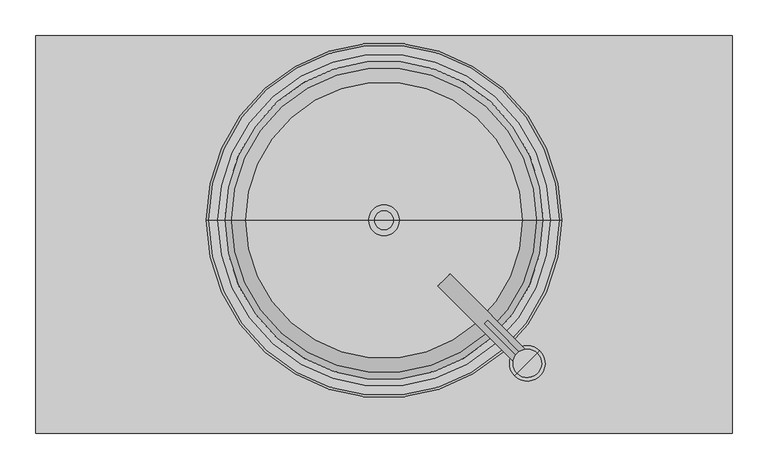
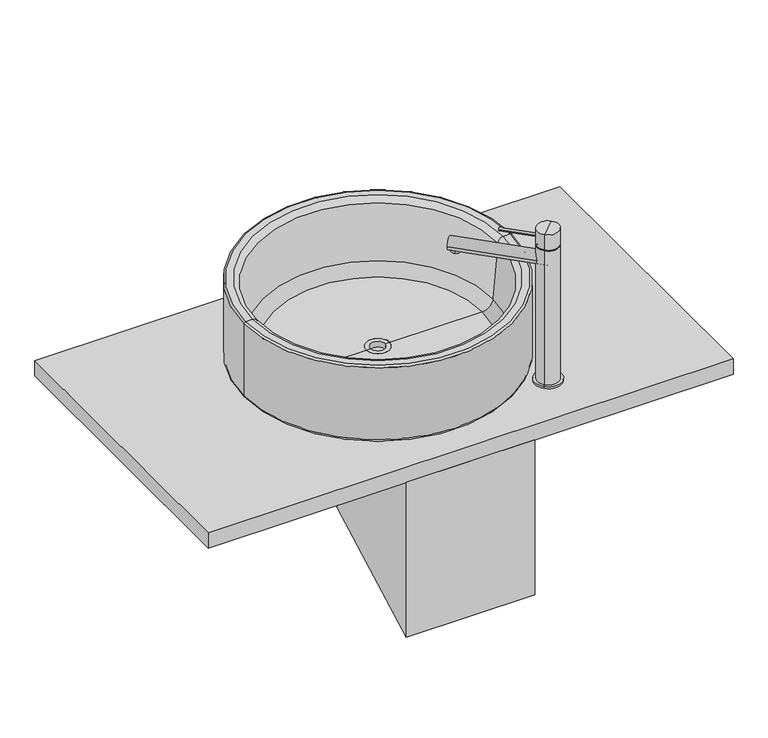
"""IFC4 building model written with IfcOpenShell, lengths in millimetres: flow terminal geometry, Lavabo moderne : Lavabo moderne."""

import ifcopenshell
import ifcopenshell.guid

model = None  # the IFC model being written
_history = None  # IfcOwnerHistory: only IFC2X3 demands one
_inside = {}  # id of a spatial element -> (the spatial element, [elements in it])
_under = {}  # id of a project, library or spatial element -> (it, [spatial elements below it])
_declared = {}  # id of a project -> (the project, [libraries it declares])
_typed = {}  # id of a type object -> (the type object, [elements of that type])
_made_of = {}  # id of a material, layer set ... -> (it, [elements and type objects made of it])


def new_model(schema):
    """Start an empty IFC model of exactly this schema.

    Asked for "IFC4X3", IfcOpenShell would pick the latest addendum, in which some entities
    have other attributes; the version numbers below select the first issue.
    IFC2X3 requires an IfcOwnerHistory on every rooted entity: one is made here for all.
    """
    global model, _history
    if schema == "IFC4X3":
        model = ifcopenshell.file(schema_version=(4, 3, 0, 0))
    else:
        model = ifcopenshell.file(schema=schema)
    _inside.clear()
    _under.clear()
    _declared.clear()
    _typed.clear()
    _made_of.clear()
    _history = None
    if model.schema == "IFC2X3":
        org = make("IfcOrganization", Name="unknown")
        user = make(
            "IfcPersonAndOrganization",
            ThePerson=make("IfcPerson", FamilyName="unknown"),
            TheOrganization=org,
        )
        app = make(
            "IfcApplication",
            ApplicationDeveloper=org,
            Version="unknown",
            ApplicationFullName="unknown",
            ApplicationIdentifier="unknown",
        )
        _history = make(
            "IfcOwnerHistory",
            OwningUser=user,
            OwningApplication=app,
            ChangeAction="ADDED",
            CreationDate=0,
        )
    return model


def make(cls, **values):
    """One entity of the class cls with the attributes given. An attribute that is None is left unset."""
    return model.create_entity(
        cls, **{name: value for name, value in values.items() if value is not None}
    )


def rooted(cls, **values):
    """An entity with a GlobalId (a new one), such as an element, a storey or a relation."""
    return make(cls, GlobalId=ifcopenshell.guid.new(), OwnerHistory=_history, **values)


def si_unit(unit_type, name, prefix=None):
    """IfcSIUnit, for example si_unit("LENGTHUNIT", "METRE", prefix="MILLI")."""
    return make("IfcSIUnit", UnitType=unit_type, Prefix=prefix, Name=name)


def assignment(units):
    """IfcUnitAssignment: the units of a project."""
    return None if units is None else make("IfcUnitAssignment", Units=units)


def point(xyz):
    """IfcCartesianPoint."""
    return None if xyz is None else make("IfcCartesianPoint", Coordinates=xyz)


def direction(xyz):
    """IfcDirection."""
    return None if xyz is None else make("IfcDirection", DirectionRatios=xyz)


def frame(location, z_axis=None, x_axis=None):
    """IfcAxis2Placement3D, a coordinate frame: its origin and axes. An axis left out is left unset."""
    return make(
        "IfcAxis2Placement3D",
        Location=point(location),
        Axis=direction(z_axis),
        RefDirection=direction(x_axis),
    )


def frame_2d(location, x_axis=None):
    """IfcAxis2Placement2D, a coordinate frame in the plane: its origin and x axis."""
    return make(
        "IfcAxis2Placement2D", Location=point(location), RefDirection=direction(x_axis)
    )


def origin():
    """The frame at (0, 0, 0) with its axes left unset."""
    return frame((0.0, 0.0, 0.0))


def place(relative_to, where):
    """IfcLocalPlacement: puts the frame where relative to a parent placement (None: the world)."""
    return make(
        "IfcLocalPlacement", PlacementRelTo=relative_to, RelativePlacement=where
    )


def context(
    kind, dimensions, precision=None, world=None, true_north=None, identifier=None
):
    """IfcGeometricRepresentationContext, for example the 3D "Model" context."""
    return make(
        "IfcGeometricRepresentationContext",
        ContextIdentifier=identifier,
        ContextType=kind,
        CoordinateSpaceDimension=dimensions,
        Precision=precision,
        WorldCoordinateSystem=world,
        TrueNorth=true_north,
    )


def project(units=None, contexts=None):
    """IfcProject with its units and contexts."""
    return rooted(
        "IfcProject",
        Name="project",
        RepresentationContexts=contexts,
        UnitsInContext=assignment(units),
    )


def spatial(cls, under=None, at=None, **own):
    """A site, building, storey or space (cls), placed at a placement, below another one or the project."""
    s = rooted(cls, ObjectPlacement=at, **own)
    if under is not None:
        _under.setdefault(under.id(), (under, []))[1].append(s)
    return s


def polyline(points):
    """IfcPolyline through the points."""
    return make("IfcPolyline", Points=[point(p) for p in points])


def circle_curve(where, radius):
    """IfcCircle in the frame where."""
    return make("IfcCircle", Position=where, Radius=radius)


def ellipse_curve(where, semi_axis1, semi_axis2):
    """IfcEllipse in the frame where."""
    return make(
        "IfcEllipse", Position=where, SemiAxis1=semi_axis1, SemiAxis2=semi_axis2
    )


def trimmed(basis, trim1, trim2, sense, master):
    """IfcTrimmedCurve: the piece of a basis curve between two trims."""
    return make(
        "IfcTrimmedCurve",
        BasisCurve=basis,
        Trim1=trim1,
        Trim2=trim2,
        SenseAgreement=sense,
        MasterRepresentation=master,
    )


def segment(curve, same_sense, transition):
    """IfcCompositeCurveSegment."""
    return make(
        "IfcCompositeCurveSegment",
        Transition=transition,
        SameSense=same_sense,
        ParentCurve=curve,
    )


def composite_curve(segments, self_intersect=None):
    """IfcCompositeCurve: segments joined end to end."""
    return make("IfcCompositeCurve", Segments=segments, SelfIntersect=self_intersect)


def outline(outer, holes=None, kind="AREA"):
    """IfcArbitraryClosedProfileDef: a profile drawn as a closed curve; with holes, ...WithVoids."""
    if holes is None:
        return make("IfcArbitraryClosedProfileDef", ProfileType=kind, OuterCurve=outer)
    return make(
        "IfcArbitraryProfileDefWithVoids",
        ProfileType=kind,
        OuterCurve=outer,
        InnerCurves=holes,
    )


def extrude(swept, where, along, depth):
    """IfcExtrudedAreaSolid: the profile swept, set in the frame where, extruded along a direction by depth."""
    return make(
        "IfcExtrudedAreaSolid",
        SweptArea=swept,
        Position=where,
        ExtrudedDirection=direction(along),
        Depth=depth,
    )


def shape(context_of_items, identifier, shape_type, items):
    """IfcShapeRepresentation: the items that make up one representation, for example the "Body"."""
    return make(
        "IfcShapeRepresentation",
        ContextOfItems=context_of_items,
        RepresentationIdentifier=identifier,
        RepresentationType=shape_type,
        Items=items,
    )


def source(mapping_origin, context_of_items, identifier, shape_type, items):
    """IfcRepresentationMap: a shape defined once, which mapped items show again and again."""
    return make(
        "IfcRepresentationMap",
        MappingOrigin=mapping_origin,
        MappedRepresentation=shape(context_of_items, identifier, shape_type, items),
    )


def transform(
    local_origin,
    x_axis=None,
    y_axis=None,
    z_axis=None,
    scale=None,
    scale2=None,
    scale3=None,
    uniform=True,
):
    """IfcCartesianTransformationOperator3D, or its non-uniform kind. x_axis, y_axis, z_axis: its Axis1, 2, 3."""
    if uniform:
        return make(
            "IfcCartesianTransformationOperator3D",
            Axis1=direction(x_axis),
            Axis2=direction(y_axis),
            LocalOrigin=point(local_origin),
            Scale=scale,
            Axis3=direction(z_axis),
        )
    return make(
        "IfcCartesianTransformationOperator3DnonUniform",
        Axis1=direction(x_axis),
        Axis2=direction(y_axis),
        LocalOrigin=point(local_origin),
        Scale=scale,
        Axis3=direction(z_axis),
        Scale2=scale2,
        Scale3=scale3,
    )


def mapped(mapping_source, mapping_target):
    """IfcMappedItem: shows the shape of a source again, moved by a transform."""
    return make(
        "IfcMappedItem", MappingSource=mapping_source, MappingTarget=mapping_target
    )


def made_of(thing, what):
    """Note that an element or type object is made of a material, layer set ...; save() writes the relation."""
    if what is not None:
        _made_of.setdefault(what.id(), (what, []))[1].append(thing)
    return thing


def element(
    cls,
    number,
    at=None,
    inside=None,
    cuts=None,
    type_object=None,
    material=None,
    context=None,
    identifier="Body",
    shape_type=None,
    held_by="IfcProductDefinitionShape",
    body=None,
    shapes=None,
    **own,
):
    """One element of the class cls, such as IfcWall. Its Tag is "e" and its number.

    at: its placement. inside: the storey or other place that contains it. cuts: it is an
    opening in that element (IfcRelVoidsElement). A single representation is given by context,
    identifier, shape_type and body (its items); several are given by shapes. held_by: the class
    of the entity that holds the representations. save() writes the other relations.
    """
    e = rooted(cls, Tag="e%d" % number, ObjectPlacement=at, **own)
    if body is not None:
        shapes = [shape(context, identifier, shape_type, body)]
    if shapes is not None:
        e.Representation = make(held_by, Representations=shapes)
    if inside is not None:
        _inside.setdefault(inside.id(), (inside, []))[1].append(e)
    if cuts is not None:
        rooted(
            "IfcRelVoidsElement", RelatingBuildingElement=cuts, RelatedOpeningElement=e
        )
    if type_object is not None:
        _typed.setdefault(type_object.id(), (type_object, []))[1].append(e)
    return made_of(e, material)


def aggregate(whole, parts):
    """IfcRelAggregates: a whole, such as a stair, and the parts it consists of."""
    return rooted("IfcRelAggregates", RelatingObject=whole, RelatedObjects=parts)


def save(model, path):
    """Write the relations noted so far, then the file.

    IfcRelAggregates (storeys below a building ...), IfcRelContainedInSpatialStructure (elements
    in a storey), IfcRelDefinesByType, IfcRelAssociatesMaterial and IfcRelDeclares: one each for
    every whole, place, type object, material and project.
    """
    for whole, parts in _under.values():
        aggregate(whole, parts)
    for where, things in _inside.values():
        rooted(
            "IfcRelContainedInSpatialStructure",
            RelatedElements=things,
            RelatingStructure=where,
        )
    for kind, things in _typed.values():
        rooted("IfcRelDefinesByType", RelatedObjects=things, RelatingType=kind)
    for what, things in _made_of.values():
        rooted("IfcRelAssociatesMaterial", RelatedObjects=things, RelatingMaterial=what)
    for by, libraries in _declared.values():
        rooted("IfcRelDeclares", RelatingContext=by, RelatedDefinitions=libraries)
    model.write(path)


def plane_surface(at):
    """IfcPlane: the flat surface through the origin of the frame at, square to its z axis."""
    return make("IfcPlane", Position=at)


def cylinder_surface(at, radius):
    """IfcCylindricalSurface: all points at the distance radius from the z axis of the frame at."""
    return make("IfcCylindricalSurface", Position=at, Radius=radius)


def revolved_surface(curve, axis_point, axis_direction):
    """IfcSurfaceOfRevolution: the curve turned about the line through axis_point along axis_direction."""
    return make(
        "IfcSurfaceOfRevolution",
        SweptCurve=make("IfcArbitraryOpenProfileDef", ProfileType="CURVE", Curve=curve),
        AxisPosition=make("IfcAxis1Placement", Location=point(axis_point), Axis=direction(axis_direction)),
    )


def advanced_brep(points, edges, surfaces, faces):
    """IfcAdvancedBrep: a solid bounded by faces that lie on surfaces and meet in shared edges.

    An edge is (start, end): straight between two places in points (the first is 0);
    or (start, end, curve); or (start, end, curve, False) where it runs against its curve.
    A face is (place in surfaces, loops), or (place, loops, False) where it looks against
    its surface's normal. A loop lists edges by number (the first is 1), with a minus sign
    where the edge is run from its end to its start. The first loop is the outer one.
    """
    corners = [point(p) for p in points]
    vertices = [make("IfcVertexPoint", VertexGeometry=c) for c in corners]
    made = []
    for start, end, *more in edges:
        made.append(
            make(
                "IfcEdgeCurve",
                EdgeStart=vertices[start],
                EdgeEnd=vertices[end],
                EdgeGeometry=more[0] if more else make("IfcPolyline", Points=[corners[start], corners[end]]),
                SameSense=more[1] if len(more) > 1 else True,
            )
        )
    hull = []
    for where, loops, *sense in faces:
        bounds = []
        for j, loop in enumerate(loops):
            ring = [make("IfcOrientedEdge", EdgeElement=made[abs(k) - 1], Orientation=k > 0) for k in loop]
            bounds.append(
                make(
                    "IfcFaceOuterBound" if j == 0 else "IfcFaceBound",
                    Bound=make("IfcEdgeLoop", EdgeList=ring),
                    Orientation=True,
                )
            )
        hull.append(make("IfcAdvancedFace", Bounds=bounds, FaceSurface=surfaces[where], SameSense=sense[0] if sense else True))
    return make("IfcAdvancedBrep", Outer=make("IfcClosedShell", CfsFaces=hull))


def flow_terminal_6b2f3d09(model_context):
    return source(origin(), model_context, "Body", "SolidModel", [
        advanced_brep(
        [(117.6871066, 224.1333228, 240.6419785), (115.8425701, 222.2887863, 233.1719709), (102.5610803, 209.0072965, 233.1719709), (100.7165438, 207.16276, 240.6419785), (217.8900178, 89.989286, 240.6419785), (234.8605806, 106.9598487, 240.6419785), (120.2387498, 191.329627, 233.1719709), (133.5202396, 204.6111168, 233.1719709)],
        [
            (0, 1, circle_curve(frame((109.2018252, 215.6480414, 240.6419785), z_axis=(-0.707106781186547, 0.707106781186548, 0.0), x_axis=(0.7071067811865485, 0.7071067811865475, 0.0)), 12.0)),
            (1, 2),
            (2, 3, circle_curve(frame((109.2018252, 215.6480414, 240.6419785), z_axis=(-0.707106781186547, 0.707106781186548, 0.0), x_axis=(0.7071067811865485, 0.7071067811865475, 0.0)), 12.0)),
            (3, 0, circle_curve(frame((109.2018252, 215.6480414, 240.6419785), z_axis=(-0.707106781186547, 0.707106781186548, 0.0), x_axis=(0.7071067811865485, 0.7071067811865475, 0.0)), 12.0)),
            (4, 5, circle_curve(frame((226.3752992, 98.4745674, 240.6419785), z_axis=(0.707106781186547, -0.707106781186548, 0.0), x_axis=(0.7071067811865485, 0.7071067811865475, 0.0)), 12.0)),
            (5, 4, circle_curve(frame((226.3752992, 98.4745674, 240.6419785), z_axis=(0.707106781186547, -0.707106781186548, 0.0), x_axis=(0.7071067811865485, 0.7071067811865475, 0.0)), 12.0)),
            (4, 3),
            (2, 6),
            (6, 7, circle_curve(frame((126.8794947, 197.9703719, 240.6419785), z_axis=(0.707106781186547, -0.707106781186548, 0.0), x_axis=(0.7071067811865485, 0.7071067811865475, 0.0)), 12.0)),
            (7, 1),
            (0, 5),
            (7, 6),
        ],
        [
            plane_surface(frame((117.6871066, 224.1333228, 240.6419785), z_axis=(-0.707106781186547, 0.707106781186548, 0.0), x_axis=(0.0, 0.0, 1.0))),
            plane_surface(frame((234.8605806, 106.9598487, 240.6419785), z_axis=(0.707106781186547, -0.707106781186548, 0.0), x_axis=(0.0, 0.0, -1.0))),
            cylinder_surface(frame((226.3752992, 98.4745674, 240.6419785), z_axis=(-0.7071067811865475, 0.7071067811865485, 0.0), x_axis=(0.7071067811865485, 0.7071067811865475, 0.0)), 12.0),
            plane_surface(frame((98.3017966, 204.7480128, 233.1719709), z_axis=(0.0, 0.0, -1.0), x_axis=(0.707106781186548, 0.707106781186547, 0.0))),
            plane_surface(frame((115.9794661, 187.0703433, 233.1719709), z_axis=(-0.707106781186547, 0.707106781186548, 0.0), x_axis=(0.707106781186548, 0.707106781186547, 0.0))),
        ],
        [
            (0, [[1, 2, 3, 4]]),
            (1, [[5, 6]]),
            (2, [[7, -3, 8, 9, 10, -1, 11, -5]]),
            (2, [[-7, -6, -11, -4]]),
            (3, [[-8, -2, -10, 12]]),
            (4, [[-9, -12]]),
        ],
    ),
        extrude(outline(composite_curve([segment(trimmed(circle_curve(frame_2d((0.0, 3.0)), 3.0), [point((0.0, 6.0))], [point((0.0, 0.0))], False, "CARTESIAN"), True, "CONTINUOUS"), segment(trimmed(circle_curve(frame_2d((0.0, 3.0)), 3.0), [point((0.0, 0.0))], [point((0.0, 6.0))], False, "CARTESIAN"), True, "CONTINUOUS")], self_intersect=False)), frame((228.4966196, 100.5958877, 283.2676852), z_axis=(-0.707106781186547, 0.707106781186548, 0.0), x_axis=(0.0, 0.0, -1.0)), (0.0, 0.0, 1.0), 82.0430665),
        advanced_brep(
        [(226.3752992, 98.4745674, 0.0), (244.0529687, 116.1522369, 0.0), (208.6976297, 80.7968978, 0.0), (240.5174348, 112.616703, 300.0), (226.3752992, 98.4745674, 300.0), (212.2331636, 84.3324317, 300.0), (212.2331636, 84.3324317, 270.0), (240.5174348, 112.616703, 270.0), (213.6473772, 85.7466453, 270.0), (239.1032213, 111.2024894, 270.0), (213.6473772, 85.7466453, 268.0), (239.1032213, 111.2024894, 268.0), (212.2331636, 84.3324317, 268.0), (240.5174348, 112.616703, 268.0), (212.2331636, 84.3324317, 4.0), (240.5174348, 112.616703, 4.0), (208.6976297, 80.7968978, 4.0), (244.0529687, 116.1522369, 4.0)],
        [
            (0, 1),
            (1, 2, circle_curve(frame((226.3752992, 98.4745674, 0.0), z_axis=(0.0, 0.0, -1.0), x_axis=(-0.7071067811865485, -0.7071067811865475, 0.0)), 25.0)),
            (2, 0),
            (2, 1, circle_curve(frame((226.3752992, 98.4745674, 0.0), z_axis=(0.0, 0.0, -1.0), x_axis=(-0.7071067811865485, -0.7071067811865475, 0.0)), 25.0)),
            (3, 4),
            (4, 5),
            (5, 3, circle_curve(frame((226.3752992, 98.4745674, 300.0), z_axis=(0.0, 0.0, 1.0), x_axis=(-0.7071067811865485, -0.7071067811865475, 0.0)), 20.0)),
            (3, 5, circle_curve(frame((226.3752992, 98.4745674, 300.0), z_axis=(0.0, 0.0, 1.0), x_axis=(-0.7071067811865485, -0.7071067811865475, 0.0)), 20.0)),
            (5, 6),
            (6, 7, circle_curve(frame((226.3752992, 98.4745674, 270.0), z_axis=(0.0, 0.0, 1.0), x_axis=(-0.7071067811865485, -0.7071067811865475, 0.0)), 20.0)),
            (7, 3),
            (7, 6, circle_curve(frame((226.3752992, 98.4745674, 270.0), z_axis=(0.0, 0.0, 1.0), x_axis=(-0.7071067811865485, -0.7071067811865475, 0.0)), 20.0)),
            (6, 8),
            (8, 9, circle_curve(frame((226.3752992, 98.4745674, 270.0), z_axis=(0.0, 0.0, 1.0), x_axis=(-0.7071067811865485, -0.7071067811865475, 0.0)), 18.0)),
            (9, 7),
            (9, 8, circle_curve(frame((226.3752992, 98.4745674, 270.0), z_axis=(0.0, 0.0, 1.0), x_axis=(-0.7071067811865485, -0.7071067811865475, 0.0)), 18.0)),
            (8, 10),
            (10, 11, circle_curve(frame((226.3752992, 98.4745674, 268.0), z_axis=(0.0, 0.0, 1.0), x_axis=(-0.7071067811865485, -0.7071067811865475, 0.0)), 18.0)),
            (11, 9),
            (11, 10, circle_curve(frame((226.3752992, 98.4745674, 268.0), z_axis=(0.0, 0.0, 1.0), x_axis=(-0.7071067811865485, -0.7071067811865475, 0.0)), 18.0)),
            (10, 12),
            (12, 13, circle_curve(frame((226.3752992, 98.4745674, 268.0), z_axis=(0.0, 0.0, 1.0), x_axis=(-0.7071067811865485, -0.7071067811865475, 0.0)), 20.0)),
            (13, 11),
            (13, 12, circle_curve(frame((226.3752992, 98.4745674, 268.0), z_axis=(0.0, 0.0, 1.0), x_axis=(-0.7071067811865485, -0.7071067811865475, 0.0)), 20.0)),
            (12, 14),
            (14, 15, circle_curve(frame((226.3752992, 98.4745674, 4.0), z_axis=(0.0, 0.0, 1.0), x_axis=(-0.7071067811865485, -0.7071067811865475, 0.0)), 20.0)),
            (15, 13),
            (15, 14, circle_curve(frame((226.3752992, 98.4745674, 4.0), z_axis=(0.0, 0.0, 1.0), x_axis=(-0.7071067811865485, -0.7071067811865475, 0.0)), 20.0)),
            (14, 16),
            (16, 17, circle_curve(frame((226.3752992, 98.4745674, 4.0), z_axis=(0.0, 0.0, 1.0), x_axis=(-0.7071067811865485, -0.7071067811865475, 0.0)), 25.0)),
            (17, 15),
            (17, 16, circle_curve(frame((226.3752992, 98.4745674, 4.0), z_axis=(0.0, 0.0, 1.0), x_axis=(-0.7071067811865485, -0.7071067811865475, 0.0)), 25.0)),
            (1, 17),
            (16, 2),
        ],
        [
            plane_surface(frame((226.3752992, 98.4745674, 0.0), z_axis=(0.0, 0.0, -1.0), x_axis=(-0.707106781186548, -0.707106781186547, 0.0))),
            plane_surface(frame((226.3752992, 98.4745674, 300.0), z_axis=(0.0, 0.0, 1.0), x_axis=(-0.707106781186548, -0.707106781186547, 0.0))),
            cylinder_surface(frame((226.3752992, 98.4745674, -25.0), z_axis=(0.0, 0.0, -1.0), x_axis=(-0.7071067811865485, -0.7071067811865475, 0.0)), 20.0),
            plane_surface(frame((226.3752992, 98.4745674, 270.0), z_axis=(0.0, 0.0, -1.0), x_axis=(-0.707106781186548, -0.707106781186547, 0.0))),
            cylinder_surface(frame((226.3752992, 98.4745674, -25.0), z_axis=(0.0, 0.0, -1.0), x_axis=(-0.7071067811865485, -0.7071067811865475, 0.0)), 18.0),
            plane_surface(frame((226.3752992, 98.4745674, 268.0), z_axis=(0.0, 0.0, 1.0), x_axis=(-0.707106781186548, -0.707106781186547, 0.0))),
            plane_surface(frame((226.3752992, 98.4745674, 4.0), z_axis=(0.0, 0.0, 1.0), x_axis=(-0.707106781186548, -0.707106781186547, 0.0))),
            cylinder_surface(frame((226.3752992, 98.4745674, -25.0), z_axis=(0.0, 0.0, -1.0), x_axis=(-0.7071067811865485, -0.7071067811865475, 0.0)), 25.0),
        ],
        [
            (0, [[1, 2, 3]]),
            (0, [[4, -1, -3]]),
            (1, [[5, 6, 7]]),
            (1, [[-5, 8, -6]]),
            (2, [[9, 10, 11, -7]]),
            (2, [[-11, 12, -9, -8]]),
            (3, [[13, 14, 15, -10]]),
            (3, [[-15, 16, -13, -12]]),
            (4, [[17, 18, 19, -14]]),
            (4, [[-19, 20, -17, -16]]),
            (5, [[21, 22, 23, -18]]),
            (5, [[-23, 24, -21, -20]]),
            (2, [[25, 26, 27, -22]]),
            (2, [[-27, 28, -25, -24]]),
            (6, [[29, 30, 31, -26]]),
            (6, [[-31, 32, -29, -28]]),
            (7, [[33, -30, 34, -2]]),
            (7, [[-34, -32, -33, -4]]),
        ],
    ),
        advanced_brep(
        [(111.5201538, 202.0160043, 233.1719709), (122.8338623, 213.3297128, 233.1719709), (111.5201538, 202.0160043, 227.0717002), (122.8338623, 213.3297128, 227.0717002)],
        [
            (0, 1, circle_curve(frame((117.177008, 207.6728586, 233.1719709), z_axis=(0.0, 0.0, 1.0), x_axis=(0.7071067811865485, 0.7071067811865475, 0.0)), 8.0)),
            (1, 0, circle_curve(frame((117.177008, 207.6728586, 233.1719709), z_axis=(0.0, 0.0, 1.0), x_axis=(0.7071067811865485, 0.7071067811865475, 0.0)), 8.0)),
            (2, 3, circle_curve(frame((117.177008, 207.6728586, 227.0717002), z_axis=(0.0, 0.0, -1.0), x_axis=(0.7071067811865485, 0.7071067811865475, 0.0)), 8.0)),
            (3, 2, circle_curve(frame((117.177008, 207.6728586, 227.0717002), z_axis=(0.0, 0.0, -1.0), x_axis=(0.7071067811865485, 0.7071067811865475, 0.0)), 8.0)),
            (1, 3),
            (2, 0),
        ],
        [
            plane_surface(frame((122.8338623, 213.3297128, 233.1719709), z_axis=(0.0, 0.0, 1.0), x_axis=(0.707106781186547, -0.707106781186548, 0.0))),
            plane_surface(frame((122.8338623, 213.3297128, 227.0717002), z_axis=(0.0, 0.0, -1.0), x_axis=(-0.707106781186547, 0.707106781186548, 0.0))),
            cylinder_surface(frame((117.177008, 207.6728586, 227.0717002), z_axis=(0.0, 0.0, 1.0), x_axis=(0.7071067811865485, 0.7071067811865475, 0.0)), 8.0),
        ],
        [
            (0, [[1, 2]]),
            (1, [[3, 4]]),
            (2, [[5, -3, 6, -2]]),
            (2, [[-6, -4, -5, -1]]),
        ],
    ),
        advanced_brep(
        [(93.9365302, 311.2708876, -30.0), (-44.2367971, 311.2708876, -30.0), (-95.0179319, 0.0, -30.0), (144.717665, 0.0, -30.0), (144.717665, 0.0, -335.8242671), (93.9365302, 311.2708876, -286.6762322), (-95.0179319, 0.0, -335.8242671), (-44.2367971, 311.2708876, -286.6762322)],
        [
            (0, 1, circle_curve(frame((24.8498666, 300.0, -30.0), z_axis=(0.0, 0.0, 1.0), x_axis=(1.0, 0.0, 0.0)), 70.0)),
            (1, 2),
            (2, 3),
            (3, 0),
            (3, 4),
            (4, 5),
            (5, 0),
            (2, 6),
            (6, 4),
            (1, 7),
            (7, 6),
            (5, 7, ellipse_curve(frame((24.8498666, 300.0, -288.4558461), z_axis=(0.0, -0.1559625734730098, 0.9877629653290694), x_axis=(0.0, 0.9877629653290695, 0.1559625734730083)), 70.8672044, 70.0)),
        ],
        [
            plane_surface(frame((154.8498666, -62.10691, -30.0), z_axis=(0.0, 0.0, 1.0), x_axis=(0.16101267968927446, -0.9869523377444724, 0.0))),
            plane_surface(frame((93.9365302, 311.2708876, -30.0), z_axis=(0.9869523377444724, 0.16101267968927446, 0.0), x_axis=(0.0, 0.0, -1.0))),
            plane_surface(frame((144.717665, 0.0, -30.0), z_axis=(0.0, -1.0, 0.0), x_axis=(0.0, 0.0, -1.0))),
            plane_surface(frame((-95.0179319, 0.0, -30.0), z_axis=(-0.9869523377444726, 0.1610126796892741, 0.0), x_axis=(0.0, 0.0, -1.0))),
            cylinder_surface(frame((24.8498666, 300.0, -335.8242671), z_axis=(0.0, 0.0, 1.0), x_axis=(1.0, 0.0, 0.0)), 70.0),
            plane_surface(frame((189.9645656, 0.0, -335.8242671), z_axis=(0.0, 0.1559625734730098, -0.9877629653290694), x_axis=(-1.0, 0.0, 0.0))),
        ],
        [
            (0, [[1, 2, 3, 4]]),
            (1, [[5, 6, 7, -4]]),
            (2, [[8, 9, -5, -3]]),
            (3, [[10, 11, -8, -2]]),
            (4, [[-7, 12, -10, -1]]),
            (5, [[-9, -11, -12, -6]]),
        ],
    ),
        advanced_brep(
        [(274.8498666, 300.0, 5.0), (269.8498666, 300.0, 0.0), (-220.1501334, 300.0, 0.0), (-225.1501334, 300.0, 5.0), (274.8498666, 300.0, 147.0), (-225.1501334, 300.0, 147.0), (271.8498666, 300.0, 150.0), (-222.1501334, 300.0, 150.0), (259.0131783, 300.0, 150.0), (-209.3134452, 300.0, 150.0), (249.0512313, 300.0, 140.8715574), (-199.3514982, 300.0, 140.8715574), (239.6361675, 300.0, 33.2568851), (-189.9364343, 300.0, 33.2568851), (219.7122735, 300.0, 15.0), (-170.0125404, 300.0, 15.0), (46.8498666, 300.0, 15.0), (2.8498666, 300.0, 15.0), (46.8498666, 300.0, 13.464751), (2.8498666, 300.0, 13.464751), (41.8498666, 300.0, 13.464751), (7.8498666, 300.0, 13.464751), (41.8498666, 300.0, 0.0), (7.8498666, 300.0, 0.0)],
        [
            (0, 1, circle_curve(frame((269.8498666, 300.0, 5.0), z_axis=(0.0, 1.0, 0.0), x_axis=(1.0, 0.0, 0.0)), 5.0)),
            (1, 2, circle_curve(frame((24.8498666, 300.0, 0.0), z_axis=(0.0, 0.0, 1.0), x_axis=(-1.0, 0.0, 0.0)), 245.0)),
            (2, 3, circle_curve(frame((-220.1501334, 300.0, 5.0), z_axis=(0.0, 1.0, 0.0), x_axis=(-1.0, 0.0, 0.0)), 5.0)),
            (3, 0, circle_curve(frame((24.8498666, 300.0, 5.0), z_axis=(0.0, 0.0, -1.0), x_axis=(-1.0, 0.0, 0.0)), 250.0)),
            (2, 1, circle_curve(frame((24.8498666, 300.0, 0.0), z_axis=(0.0, 0.0, 1.0), x_axis=(-1.0, 0.0, 0.0)), 245.0)),
            (0, 3, circle_curve(frame((24.8498666, 300.0, 5.0), z_axis=(0.0, 0.0, -1.0), x_axis=(-1.0, 0.0, 0.0)), 250.0)),
            (4, 0),
            (3, 5),
            (5, 4, circle_curve(frame((24.8498666, 300.0, 147.0), z_axis=(0.0, 0.0, -1.0), x_axis=(-1.0, 0.0, 0.0)), 250.0)),
            (4, 5, circle_curve(frame((24.8498666, 300.0, 147.0), z_axis=(0.0, 0.0, -1.0), x_axis=(-1.0, 0.0, 0.0)), 250.0)),
            (6, 4, circle_curve(frame((271.8498666, 300.0, 147.0), z_axis=(0.0, 1.0, 0.0), x_axis=(1.0, 0.0, 0.0)), 3.0)),
            (5, 7, circle_curve(frame((-222.1501334, 300.0, 147.0), z_axis=(0.0, 1.0, 0.0), x_axis=(-1.0, 0.0, 0.0)), 3.0)),
            (7, 6, circle_curve(frame((24.8498666, 300.0, 150.0), z_axis=(0.0, 0.0, -1.0), x_axis=(-1.0, 0.0, 0.0)), 247.0)),
            (6, 7, circle_curve(frame((24.8498666, 300.0, 150.0), z_axis=(0.0, 0.0, -1.0), x_axis=(-1.0, 0.0, 0.0)), 247.0)),
            (8, 6),
            (7, 9),
            (9, 8, circle_curve(frame((24.8498666, 300.0, 150.0), z_axis=(0.0, 0.0, -1.0), x_axis=(-1.0, 0.0, 0.0)), 234.1633117)),
            (8, 9, circle_curve(frame((24.8498666, 300.0, 150.0), z_axis=(0.0, 0.0, -1.0), x_axis=(-1.0, 0.0, 0.0)), 234.1633117)),
            (10, 8, circle_curve(frame((259.0131783, 300.0, 140.0), z_axis=(0.0, 1.0, 0.0), x_axis=(1.0, 0.0, 0.0)), 10.0)),
            (9, 11, circle_curve(frame((-209.3134452, 300.0, 140.0), z_axis=(0.0, 1.0, 0.0), x_axis=(-1.0, 0.0, 0.0)), 10.0)),
            (11, 10, circle_curve(frame((24.8498666, 300.0, 140.8715574), z_axis=(0.0, 0.0, -1.0), x_axis=(-1.0, 0.0, 0.0)), 224.2013648)),
            (10, 11, circle_curve(frame((24.8498666, 300.0, 140.8715574), z_axis=(0.0, 0.0, -1.0), x_axis=(-1.0, 0.0, 0.0)), 224.2013648)),
            (12, 10),
            (11, 13),
            (13, 12, circle_curve(frame((24.8498666, 300.0, 33.2568851), z_axis=(0.0, 0.0, -1.0), x_axis=(-1.0, 0.0, 0.0)), 214.7863009)),
            (12, 13, circle_curve(frame((24.8498666, 300.0, 33.2568851), z_axis=(0.0, 0.0, -1.0), x_axis=(-1.0, 0.0, 0.0)), 214.7863009)),
            (14, 12, circle_curve(frame((219.7122735, 300.0, 35.0), z_axis=(0.0, -1.0, 0.0), x_axis=(1.0, 0.0, 0.0)), 20.0)),
            (13, 15, circle_curve(frame((-170.0125404, 300.0, 35.0), z_axis=(0.0, -1.0, 0.0), x_axis=(-1.0, 0.0, 0.0)), 20.0)),
            (15, 14, circle_curve(frame((24.8498666, 300.0, 15.0), z_axis=(0.0, 0.0, -1.0), x_axis=(-1.0, 0.0, 0.0)), 194.8624069)),
            (14, 15, circle_curve(frame((24.8498666, 300.0, 15.0), z_axis=(0.0, 0.0, -1.0), x_axis=(-1.0, 0.0, 0.0)), 194.8624069)),
            (16, 14),
            (15, 17),
            (17, 16, circle_curve(frame((24.8498666, 300.0, 15.0), z_axis=(0.0, 0.0, -1.0), x_axis=(-1.0, 0.0, 0.0)), 22.0)),
            (16, 17, circle_curve(frame((24.8498666, 300.0, 15.0), z_axis=(0.0, 0.0, -1.0), x_axis=(-1.0, 0.0, 0.0)), 22.0)),
            (18, 16),
            (17, 19),
            (19, 18, circle_curve(frame((24.8498666, 300.0, 13.464751), z_axis=(0.0, 0.0, -1.0), x_axis=(-1.0, 0.0, 0.0)), 22.0)),
            (18, 19, circle_curve(frame((24.8498666, 300.0, 13.464751), z_axis=(0.0, 0.0, -1.0), x_axis=(-1.0, 0.0, 0.0)), 22.0)),
            (20, 18),
            (19, 21),
            (21, 20, circle_curve(frame((24.8498666, 300.0, 13.464751), z_axis=(0.0, 0.0, -1.0), x_axis=(-1.0, 0.0, 0.0)), 17.0)),
            (20, 21, circle_curve(frame((24.8498666, 300.0, 13.464751), z_axis=(0.0, 0.0, -1.0), x_axis=(-1.0, 0.0, 0.0)), 17.0)),
            (22, 20),
            (21, 23),
            (23, 22, circle_curve(frame((24.8498666, 300.0, 0.0), z_axis=(0.0, 0.0, -1.0), x_axis=(-1.0, 0.0, 0.0)), 17.0)),
            (22, 23, circle_curve(frame((24.8498666, 300.0, 0.0), z_axis=(0.0, 0.0, -1.0), x_axis=(-1.0, 0.0, 0.0)), 17.0)),
            (1, 22),
            (23, 2),
        ],
        [
            revolved_surface(trimmed(ellipse_curve(frame((-220.1501334, 300.0, 5.0), z_axis=(0.0, 1.0, 0.0), x_axis=(-1.0, 0.0, 0.0)), 5.0, 5.0), [point((-220.1501334, 300.0, 0.0))], [point((-225.1501334, 300.0, 5.0))], True, "CARTESIAN"), (24.8498666, 300.0, -50.0), (0.0, 0.0, 1.0)),
            cylinder_surface(frame((24.8498666, 300.0, -50.0), z_axis=(0.0, 0.0, 1.0), x_axis=(-1.0, 0.0, 0.0)), 250.0),
            revolved_surface(trimmed(ellipse_curve(frame((-222.1501334, 300.0, 147.0), z_axis=(0.0, 1.0, 0.0), x_axis=(-1.0, 0.0, 0.0)), 3.0, 3.0), [point((-225.1501334, 300.0, 147.0))], [point((-222.1501334, 300.0, 150.0))], True, "CARTESIAN"), (24.8498666, 300.0, -50.0), (0.0, 0.0, 1.0)),
            plane_surface(frame((24.8498666, 300.0, 150.0), z_axis=(0.0, 0.0, 1.0), x_axis=(-1.0, 0.0, 0.0))),
            revolved_surface(trimmed(ellipse_curve(frame((-209.3134452, 300.0, 140.0), z_axis=(0.0, 1.0, 0.0), x_axis=(-1.0, 0.0, 0.0)), 10.0, 10.0), [point((-209.3134452, 300.0, 150.0))], [point((-199.3514982, 300.0, 140.8715574))], True, "CARTESIAN"), (24.8498666, 300.0, -50.0), (0.0, 0.0, 1.0)),
            revolved_surface(polyline([(-199.3514982, 300.0, 140.8715574), (-189.9364343, 300.0, 33.2568851)]), (24.8498666, 300.0, -50.0), (0.0, 0.0, 1.0)),
            revolved_surface(trimmed(ellipse_curve(frame((-170.0125404, 300.0, 35.0), z_axis=(0.0, -1.0, 0.0), x_axis=(-1.0, 0.0, 0.0)), 20.0, 20.0), [point((-189.9364343, 300.0, 33.2568851))], [point((-170.0125404, 300.0, 15.0))], True, "CARTESIAN"), (24.8498666, 300.0, -50.0), (0.0, 0.0, 1.0)),
            plane_surface(frame((24.8498666, 300.0, 15.0), z_axis=(0.0, 0.0, 1.0), x_axis=(-1.0, 0.0, 0.0))),
            revolved_surface(polyline([(2.8498665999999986, 300.0, 15.0), (2.8498665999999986, 300.0, 13.464751)]), (24.8498666, 300.0, -50.0), (0.0, 0.0, 1.0)),
            plane_surface(frame((24.8498666, 300.0, 13.464751), z_axis=(0.0, 0.0, 1.0), x_axis=(-1.0, 0.0, 0.0))),
            revolved_surface(polyline([(7.849866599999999, 300.0, 13.464751), (7.849866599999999, 300.0, 0.0)]), (24.8498666, 300.0, -50.0), (0.0, 0.0, 1.0)),
            plane_surface(frame((24.8498666, 300.0, 0.0), z_axis=(0.0, 0.0, -1.0), x_axis=(-1.0, 0.0, 0.0))),
        ],
        [
            (0, [[1, 2, 3, 4]]),
            (0, [[-3, 5, -1, 6]]),
            (1, [[7, -4, 8, 9]]),
            (1, [[-8, -6, -7, 10]]),
            (2, [[11, -9, 12, 13]]),
            (2, [[-12, -10, -11, 14]]),
            (3, [[15, -13, 16, 17]]),
            (3, [[-16, -14, -15, 18]]),
            (4, [[19, -17, 20, 21]]),
            (4, [[-20, -18, -19, 22]]),
            (5, [[23, -21, 24, 25]]),
            (5, [[-24, -22, -23, 26]]),
            (6, [[27, -25, 28, 29]]),
            (6, [[-28, -26, -27, 30]]),
            (7, [[31, -29, 32, 33]]),
            (7, [[-32, -30, -31, 34]]),
            (8, [[35, -33, 36, 37]]),
            (8, [[-36, -34, -35, 38]]),
            (9, [[39, -37, 40, 41]]),
            (9, [[-40, -38, -39, 42]]),
            (10, [[43, -41, 44, 45]]),
            (10, [[-44, -42, -43, 46]]),
            (11, [[47, -45, 48, -2]]),
            (11, [[-48, -46, -47, -5]]),
        ],
    ),
        extrude(outline(polyline([(514.8498666, 0.0), (-465.1501334, 0.0), (-465.1501334, 560.0), (514.8498666, 560.0), (514.8498666, 0.0)])), frame((0.0, 0.0, -30.0), z_axis=(0.0, 0.0, 1.0), x_axis=(1.0, 0.0, 0.0)), (0.0, 0.0, 1.0), 30.0),
        advanced_brep(
        [(38.5877729, 300.0, 15.0), (46.8498666, 300.0, 15.0), (2.8498666, 300.0, 15.0), (11.1119603, 300.0, 15.0), (38.5877729, 300.0, 3.7247134), (11.1119603, 300.0, 3.7247134), (24.8498666, 300.0, 3.7247134), (41.8498666, 300.0, 0.0), (24.8498666, 300.0, 0.0), (7.8498666, 300.0, 0.0), (41.8498666, 300.0, 13.464751), (7.8498666, 300.0, 13.464751), (46.8498666, 300.0, 13.464751), (2.8498666, 300.0, 13.464751)],
        [
            (0, 1),
            (1, 2, circle_curve(frame((24.8498666, 300.0, 15.0), z_axis=(0.0, 0.0, 1.0), x_axis=(-1.0, 0.0, 0.0)), 22.0)),
            (2, 3),
            (3, 0, circle_curve(frame((24.8498666, 300.0, 15.0), z_axis=(0.0, 0.0, -1.0), x_axis=(-1.0, 0.0, 0.0)), 13.7379063)),
            (2, 1, circle_curve(frame((24.8498666, 300.0, 15.0), z_axis=(0.0, 0.0, 1.0), x_axis=(-1.0, 0.0, 0.0)), 22.0)),
            (0, 3, circle_curve(frame((24.8498666, 300.0, 15.0), z_axis=(0.0, 0.0, -1.0), x_axis=(-1.0, 0.0, 0.0)), 13.7379063)),
            (4, 0),
            (3, 5),
            (5, 4, circle_curve(frame((24.8498666, 300.0, 3.7247134), z_axis=(0.0, 0.0, -1.0), x_axis=(-1.0, 0.0, 0.0)), 13.7379063)),
            (4, 5, circle_curve(frame((24.8498666, 300.0, 3.7247134), z_axis=(0.0, 0.0, -1.0), x_axis=(-1.0, 0.0, 0.0)), 13.7379063)),
            (6, 4),
            (5, 6),
            (7, 8),
            (8, 9),
            (9, 7, circle_curve(frame((24.8498666, 300.0, 0.0), z_axis=(0.0, 0.0, -1.0), x_axis=(-1.0, 0.0, 0.0)), 17.0)),
            (7, 9, circle_curve(frame((24.8498666, 300.0, 0.0), z_axis=(0.0, 0.0, -1.0), x_axis=(-1.0, 0.0, 0.0)), 17.0)),
            (10, 7),
            (9, 11),
            (11, 10, circle_curve(frame((24.8498666, 300.0, 13.464751), z_axis=(0.0, 0.0, -1.0), x_axis=(-1.0, 0.0, 0.0)), 17.0)),
            (10, 11, circle_curve(frame((24.8498666, 300.0, 13.464751), z_axis=(0.0, 0.0, -1.0), x_axis=(-1.0, 0.0, 0.0)), 17.0)),
            (12, 10),
            (11, 13),
            (13, 12, circle_curve(frame((24.8498666, 300.0, 13.464751), z_axis=(0.0, 0.0, -1.0), x_axis=(-1.0, 0.0, 0.0)), 22.0)),
            (12, 13, circle_curve(frame((24.8498666, 300.0, 13.464751), z_axis=(0.0, 0.0, -1.0), x_axis=(-1.0, 0.0, 0.0)), 22.0)),
            (1, 12),
            (13, 2),
        ],
        [
            plane_surface(frame((24.8498666, 300.0, 15.0), z_axis=(0.0, 0.0, 1.0), x_axis=(-1.0, 0.0, 0.0))),
            revolved_surface(polyline([(11.111960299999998, 300.0, 15.000000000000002), (11.111960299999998, 300.0, 3.7247134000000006)]), (24.8498666, 300.0, -6.9916745), (0.0, 0.0, 1.0)),
            plane_surface(frame((24.8498666, 300.0, 3.7247134), z_axis=(0.0, 0.0, 1.0), x_axis=(-1.0, 0.0, 0.0))),
            plane_surface(frame((24.8498666, 300.0, 0.0), z_axis=(0.0, 0.0, -1.0), x_axis=(-1.0, 0.0, 0.0))),
            cylinder_surface(frame((24.8498666, 300.0, -6.9916745), z_axis=(0.0, 0.0, 1.0), x_axis=(-1.0, 0.0, 0.0)), 17.0),
            plane_surface(frame((24.8498666, 300.0, 13.464751), z_axis=(0.0, 0.0, -1.0), x_axis=(-1.0, 0.0, 0.0))),
            cylinder_surface(frame((24.8498666, 300.0, -6.9916745), z_axis=(0.0, 0.0, 1.0), x_axis=(-1.0, 0.0, 0.0)), 22.0),
        ],
        [
            (0, [[1, 2, 3, 4]]),
            (0, [[-3, 5, -1, 6]]),
            (1, [[7, -4, 8, 9]]),
            (1, [[-8, -6, -7, 10]]),
            (2, [[11, -9, 12]]),
            (2, [[-12, -10, -11]]),
            (3, [[13, 14, 15]]),
            (3, [[-14, -13, 16]]),
            (4, [[17, -15, 18, 19]]),
            (4, [[-18, -16, -17, 20]]),
            (5, [[21, -19, 22, 23]]),
            (5, [[-22, -20, -21, 24]]),
            (6, [[25, -23, 26, -2]]),
            (6, [[-26, -24, -25, -5]]),
        ],
    ),
    ])


if __name__ == "__main__":
    model = new_model("IFC4")
    model_context = context("Model", 3, world=origin())
    ifc_project = project(units=[si_unit("LENGTHUNIT", "METRE", prefix="MILLI")], contexts=[model_context])
    site = spatial("IfcSite", under=ifc_project)
    building = spatial("IfcBuilding", under=site)
    placement = place(None, origin())
    flow_terminal_shape = flow_terminal_6b2f3d09(model_context)
    element("IfcFlowTerminal", 1, ObjectType="Lavabo moderne : Lavabo moderne", at=placement, inside=building, context=model_context, shape_type="MappedRepresentation", body=[
        mapped(flow_terminal_shape, transform((0.0, 0.0, 0.0), x_axis=(1.0, 0.0, 0.0), y_axis=(0.0, 1.0, 0.0), z_axis=(0.0, 0.0, 1.0))),
    ])
    save(model, "model.ifc")
